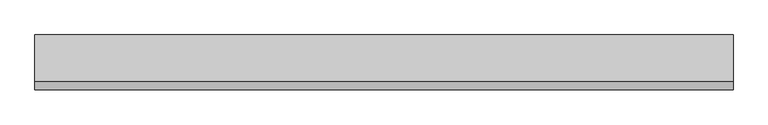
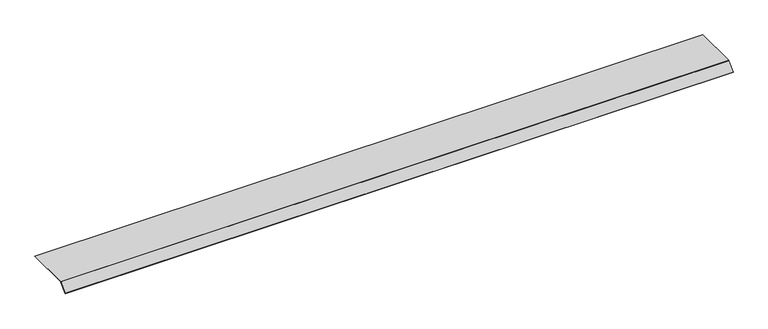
"""IFC4 building model written with IfcOpenShell, lengths in millimetres: proxy geometry, Electrical_Installation_Hager_Blank-Cover-800mm-Double-Sided-Extended-100-Height-70mm : Electrical_Installation_Hager_Blank-Cover-800mm-Double-Sided-Extended-100-Height-70mm."""

from ifc_helpers import new_model, si_unit, point, frame, frame_2d, origin, place, context, project, spatial, polyline, circle_curve, trimmed, segment, composite_curve, outline, extrude, source, transform, mapped, element, save


def electrical_fixtures_e28efdc0(model_context):
    return source(origin(), model_context, "Body", "SweptSolid", [
        extrude(outline(composite_curve([segment(polyline([(251.36328, 40.5), (251.36328, 37.5), (-149.8229541, 37.5)]), True, "CONTINUOUS"), segment(trimmed(circle_curve(frame_2d((-149.8229541, 36.0725733)), 1.4274267), [point((-149.8229541, 37.5))], [point((-150.8322972, 37.0819164))], True, "CARTESIAN"), True, "CONTINUOUS"), segment(polyline([(-150.8322972, 37.0819164), (-218.6627596, -30.7485461), (-220.78408, -28.6272257), (-152.8206472, 39.336207)]), True, "CONTINUOUS"), segment(trimmed(circle_curve(frame_2d((-150.0110025, 36.5265623)), 3.9734377), [point((-152.8206472, 39.336207))], [point((-150.0110025, 40.5))], False, "CARTESIAN"), True, "CONTINUOUS"), segment(polyline([(-150.0110025, 40.5), (251.36328, 40.5)]), True, "CONTINUOUS")], self_intersect=False)), frame((0.0, 0.0, 0.0), z_axis=(1.0, 0.0, 0.0), x_axis=(0.0, 1.0, 0.0)), (0.0, 0.0, 1.0), 6011.6956759),
    ])


if __name__ == "__main__":
    model = new_model("IFC4")
    model_context = context("Model", 3, world=origin())
    ifc_project = project(units=[si_unit("LENGTHUNIT", "METRE", prefix="MILLI")], contexts=[model_context])
    site = spatial("IfcSite", under=ifc_project)
    building = spatial("IfcBuilding", under=site)
    placement = place(None, origin())
    electrical_fixtures_shape = electrical_fixtures_e28efdc0(model_context)
    element("IfcBuildingElementProxy", 1, Name="Electrical_Installation_Hager_Blank-Cover-800mm-Double-Sided-Extended-100-Height-70mm : Electrical_Installation_Hager_Blank-Cover-800mm-Double-Sided-Extended-100-Height-70mm", ObjectType="Electrical_Installation_Hager_Blank-Cover-800mm-Double-Sided-Extended-100-Height-70mm : Electrical_Installation_Hager_Blank-Cover-800mm-Double-Sided-Extended-100-Height-70mm", at=placement, inside=building, context=model_context, shape_type="MappedRepresentation", body=[
        mapped(electrical_fixtures_shape, transform((0.0, 0.0, 0.0), x_axis=(1.0, 0.0, 0.0), y_axis=(0.0, 1.0, 0.0), z_axis=(0.0, 0.0, 1.0))),
    ])
    save(model, "model.ifc")
